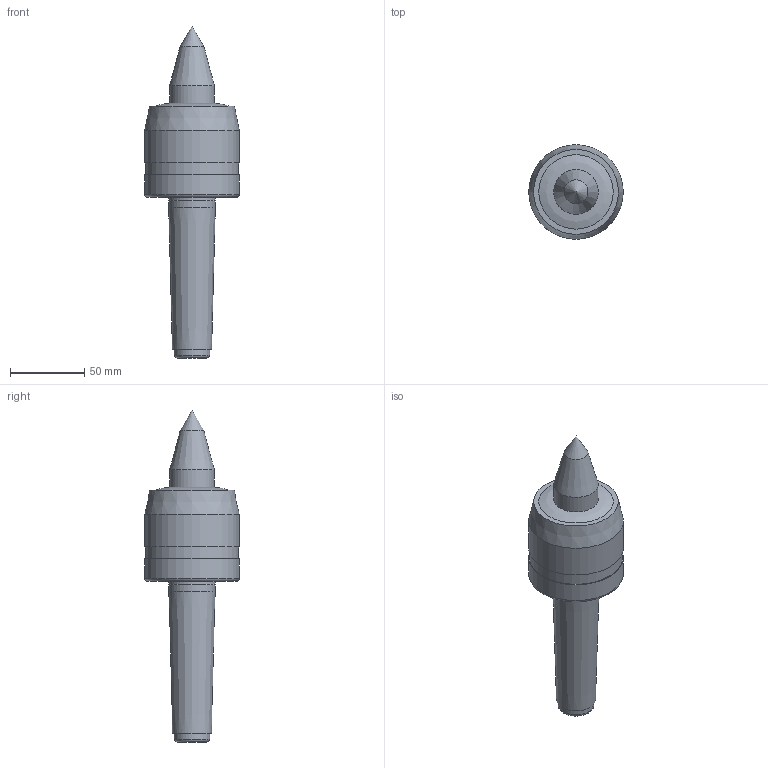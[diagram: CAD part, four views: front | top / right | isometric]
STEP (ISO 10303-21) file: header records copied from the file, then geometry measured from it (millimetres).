
FILE_DESCRIPTION(/* description */ (''),/* implementation_level */ '2;1');
FILE_NAME(/* name */ 'GSXW-MT4-60C.stp',/* time_stamp */ '2025-08-20T17:16:43+03:00',/* author */ ('User'),/* organization */ (''),/* preprocessor_version */ 'ST-DEVELOPER v19.2',/* originating_system */ 'Autodesk Inventor 2024',/* authorisation */ '');
FILE_SCHEMA (('AUTOMOTIVE_DESIGN { 1 0 10303 214 3 1 1 }'));
Length unit declared in the file: millimetre
Products named in the file (1): MT4 DJ-L03006
Bounding box: 63.5 x 63.5 x 223 mm (x, y, z)
Volume: 280387.1 mm3; surface area: 30329.6 mm2
Topology: 1 solids, 1 shells, 33 faces, 61 edges, 38 vertices
Faces by surface type: plane 16, cylinder 8, cone 6, torus 2, bspline 1
Full cylindrical faces by diameter (mm): 15 x1, 24 x1, 30 x1, 31 x1, 31.248 x1, 62.5 x1, 63.5 x2
Entity records: 910 total; most frequent: CARTESIAN_POINT 158, DIRECTION 154, ORIENTED_EDGE 120, AXIS2_PLACEMENT_3D 61, EDGE_CURVE 60, EDGE_LOOP 42, VERTEX_POINT 38, FACE_OUTER_BOUND 33
